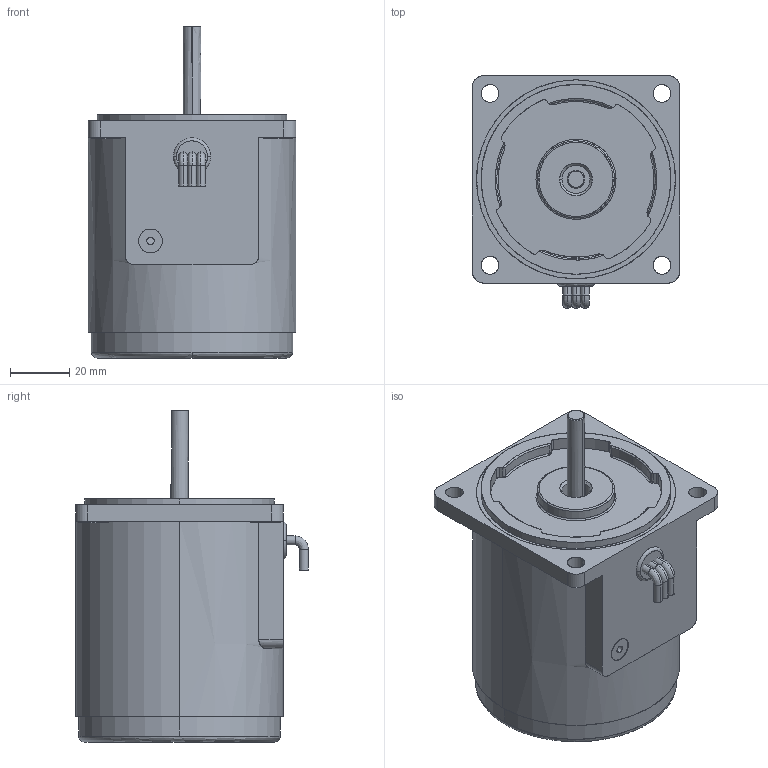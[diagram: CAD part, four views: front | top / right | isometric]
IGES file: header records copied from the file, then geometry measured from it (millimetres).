
Start section: SolidWorks IGES file using analytic representation for surfaces
Bounding box: 70 x 78.5 x 112 mm (x, y, z)
Surface area: 55139.5 mm2 (no closed solid volume)
Topology: 0 solids, 0 shells, 185 faces, 3337 edges, 3337 vertices
Faces by surface type: revolution 94, bspline 91
